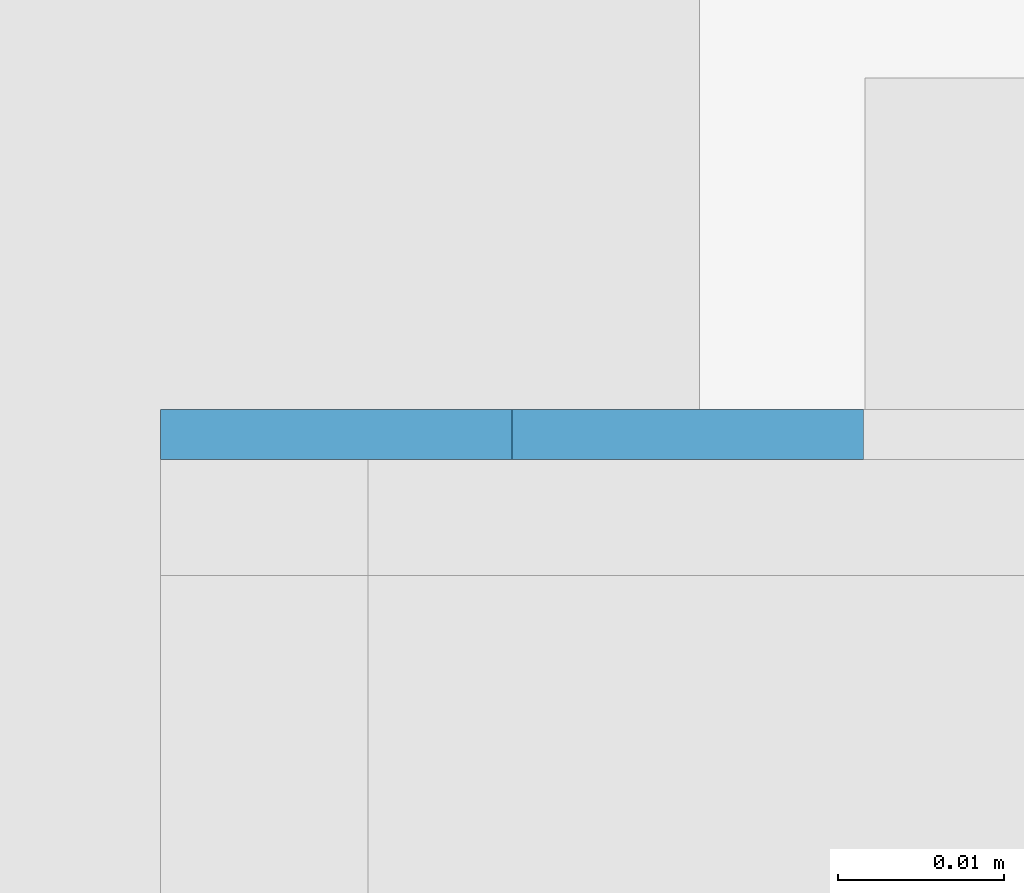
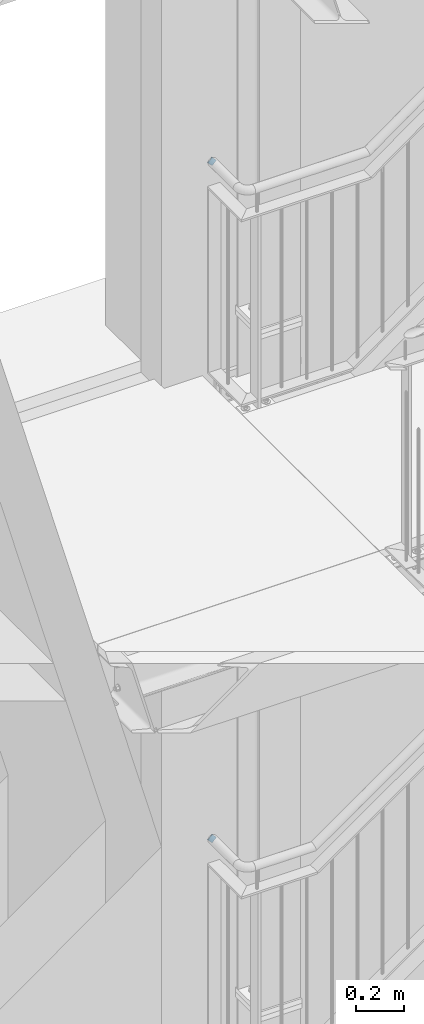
# One storey, part 225 of 825: 2 plates, 8 openings.
"""IFC2X3 building model written with IfcOpenShell, lengths in millimetres."""

from ifc_helpers import new_model, entity, si_unit, converted_unit, point, frame, frame_2d, origin, origin_with_axes, place, context, project, spatial, polyline, circle_curve, line_curve, trimmed, segment, composite_curve, outline, extrude, material, layer, layer_set, element, save


model = new_model("IFC2X3")

# Units and contexts
model_context = context("Model", 3, precision=1e-09, world=origin_with_axes())
ifc_project = project(units=[si_unit("LENGTHUNIT", "METRE", prefix="MILLI"), si_unit("AREAUNIT", "SQUARE_METRE"), si_unit("VOLUMEUNIT", "CUBIC_METRE"), converted_unit("PLANEANGLEUNIT", "DEGREE", entity("IfcPlaneAngleMeasure", 0.01745329), si_unit("PLANEANGLEUNIT", "RADIAN"), dimensions=[0, 0, 0, 0, 0, 0, 0])], contexts=[model_context])

# Site, building, storey
site_placement = place(None, origin_with_axes())
site = spatial("IfcSite", under=ifc_project, at=site_placement, Name="Cnopf'sche Kinderklinik", CompositionType="ELEMENT")
building_placement = place(site_placement, origin_with_axes())
building = spatial("IfcBuilding", under=site, at=building_placement, Name="Struktur 1", CompositionType="ELEMENT")
storey_placement = place(building_placement, origin_with_axes())
storey = spatial("IfcBuildingStorey", under=building, at=storey_placement, Name="Default Storey", CompositionType="ELEMENT", Elevation=0.0)

# Plate, openings
ifc_material = material(Name="S235JR")
ifc_layer = layer(ifc_material, 3.0)
ifc_layer_set = layer_set([ifc_layer], Name="S235JR")
plate_1_placement = place(None, frame((4614.213403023, 7608.736971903, 8460.000000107), z_axis=(0.0, 1.0, 0.0), x_axis=(0.0, 0.0, 1.0)))
plate_1 = element("IfcPlate", 1, at=plate_1_placement, inside=storey, material=ifc_layer_set, Name="-", ObjectType="-", context=model_context, shape_type="SweptSolid", body=[
    extrude(outline(polyline([(21.2, 0.0), (21.2, 42.4), (-21.2, 42.4), (-21.2, 0.0), (21.2, 0.0)])), origin_with_axes(), (0.0, 0.0, 1.0), 3.0),
])
opening_1_placement = place(plate_1_placement, frame((0.0, 0.0, -0.01), z_axis=(0.0, 0.0, 1.0), x_axis=(1.0, 0.0, 0.0)))
element("IfcOpeningElement", 2, at=opening_1_placement, cuts=plate_1, ObjectType="Opening", context=model_context, shape_type="SweptSolid", body=[
    extrude(outline(composite_curve([segment(trimmed(line_curve((21.2, 0.0), (0.0, 1.0), 21.2), [point((21.2, 0.0))], [point((21.2, 21.2))], True, "CARTESIAN"), True, "CONTINUOUS"), segment(trimmed(circle_curve(frame_2d((0.0, 21.2), x_axis=(-1.0, 0.0)), 21.2), [point((21.2, 21.2))], [point((0.0, 0.0))], False, "CARTESIAN"), True, "CONTINUOUS"), segment(trimmed(line_curve((0.0, 0.0), (1.0, 0.0), 21.2), [point((0.0, 0.0))], [point((21.2, 0.0))], True, "CARTESIAN"), True, "CONTINUOUS")], self_intersect=False)), origin(), (0.0, 0.0, 1.0), 3.02),
])
opening_2_placement = place(plate_1_placement, frame((0.0, 0.0, -0.01), z_axis=(0.0, 0.0, 1.0), x_axis=(1.0, 0.0, 0.0)))
element("IfcOpeningElement", 3, at=opening_2_placement, cuts=plate_1, ObjectType="Opening", context=model_context, shape_type="SweptSolid", body=[
    extrude(outline(composite_curve([segment(trimmed(line_curve((21.2, 42.4), (-1.0, 0.0), 21.2), [point((21.2, 42.4))], [point((0.0, 42.4))], True, "CARTESIAN"), True, "CONTINUOUS"), segment(trimmed(circle_curve(frame_2d((0.0, 21.2), x_axis=(-1.0, 0.0)), 21.2), [point((0.0, 42.4))], [point((21.2, 21.2))], False, "CARTESIAN"), True, "CONTINUOUS"), segment(trimmed(line_curve((21.2, 21.2), (0.0, 1.0), 21.2), [point((21.2, 21.2))], [point((21.2, 42.4))], True, "CARTESIAN"), True, "CONTINUOUS")], self_intersect=False)), origin(), (0.0, 0.0, 1.0), 3.02),
])
opening_3_placement = place(plate_1_placement, frame((0.0, 0.0, -0.01), z_axis=(0.0, 0.0, 1.0), x_axis=(1.0, 0.0, 0.0)))
element("IfcOpeningElement", 4, at=opening_3_placement, cuts=plate_1, ObjectType="Opening", context=model_context, shape_type="SweptSolid", body=[
    extrude(outline(composite_curve([segment(trimmed(line_curve((-21.2, 42.4), (0.0, -1.0), 21.2), [point((-21.2, 42.4))], [point((-21.2, 21.2))], True, "CARTESIAN"), True, "CONTINUOUS"), segment(trimmed(circle_curve(frame_2d((0.0, 21.2), x_axis=(-1.0, 0.0)), 21.2), [point((-21.2, 21.2))], [point((0.0, 42.4))], False, "CARTESIAN"), True, "CONTINUOUS"), segment(trimmed(line_curve((0.0, 42.4), (-1.0, 0.0), 21.2), [point((0.0, 42.4))], [point((-21.2, 42.4))], True, "CARTESIAN"), True, "CONTINUOUS")], self_intersect=False)), origin(), (0.0, 0.0, 1.0), 3.02),
])
opening_4_placement = place(plate_1_placement, frame((0.0, 0.0, -0.01), z_axis=(0.0, 0.0, 1.0), x_axis=(1.0, 0.0, 0.0)))
element("IfcOpeningElement", 5, at=opening_4_placement, cuts=plate_1, ObjectType="Opening", context=model_context, shape_type="SweptSolid", body=[
    extrude(outline(composite_curve([segment(trimmed(line_curve((-21.2, 0.0), (1.0, 0.0), 21.2), [point((-21.2, 0.0))], [point((0.0, 0.0))], True, "CARTESIAN"), True, "CONTINUOUS"), segment(trimmed(circle_curve(frame_2d((0.0, 21.2), x_axis=(-1.0, 0.0)), 21.2), [point((0.0, 0.0))], [point((-21.2, 21.2))], False, "CARTESIAN"), True, "CONTINUOUS"), segment(trimmed(line_curve((-21.2, 21.2), (0.0, -1.0), 21.2), [point((-21.2, 21.2))], [point((-21.2, 0.0))], True, "CARTESIAN"), True, "CONTINUOUS")], self_intersect=False)), origin(), (0.0, 0.0, 1.0), 3.02),
])

plate_2_placement = place(None, frame((4614.213403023, 7608.736971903, 4987.000000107), z_axis=(0.0, 1.0, 0.0), x_axis=(0.0, 0.0, 1.0)))
plate_2 = element("IfcPlate", 6, at=plate_2_placement, inside=storey, material=ifc_layer_set, Name="-", ObjectType="-", context=model_context, shape_type="SweptSolid", body=[
    extrude(outline(polyline([(21.2, 0.0), (21.2, 42.4), (-21.2, 42.4), (-21.2, 0.0), (21.2, 0.0)])), origin_with_axes(), (0.0, 0.0, 1.0), 3.0),
])
opening_5_placement = place(plate_2_placement, frame((0.0, 0.0, -0.01), z_axis=(0.0, 0.0, 1.0), x_axis=(1.0, 0.0, 0.0)))
element("IfcOpeningElement", 7, at=opening_5_placement, cuts=plate_2, ObjectType="Opening", context=model_context, shape_type="SweptSolid", body=[
    extrude(outline(composite_curve([segment(trimmed(line_curve((21.2, 0.0), (0.0, 1.0), 21.2), [point((21.2, 0.0))], [point((21.2, 21.2))], True, "CARTESIAN"), True, "CONTINUOUS"), segment(trimmed(circle_curve(frame_2d((0.0, 21.2), x_axis=(-1.0, 0.0)), 21.2), [point((21.2, 21.2))], [point((0.0, 0.0))], False, "CARTESIAN"), True, "CONTINUOUS"), segment(trimmed(line_curve((0.0, 0.0), (1.0, 0.0), 21.2), [point((0.0, 0.0))], [point((21.2, 0.0))], True, "CARTESIAN"), True, "CONTINUOUS")], self_intersect=False)), origin(), (0.0, 0.0, 1.0), 3.02),
])
opening_6_placement = place(plate_2_placement, frame((0.0, 0.0, -0.01), z_axis=(0.0, 0.0, 1.0), x_axis=(1.0, 0.0, 0.0)))
element("IfcOpeningElement", 8, at=opening_6_placement, cuts=plate_2, ObjectType="Opening", context=model_context, shape_type="SweptSolid", body=[
    extrude(outline(composite_curve([segment(trimmed(line_curve((21.2, 42.4), (-1.0, 0.0), 21.2), [point((21.2, 42.4))], [point((0.0, 42.4))], True, "CARTESIAN"), True, "CONTINUOUS"), segment(trimmed(circle_curve(frame_2d((0.0, 21.2), x_axis=(-1.0, 0.0)), 21.2), [point((0.0, 42.4))], [point((21.2, 21.2))], False, "CARTESIAN"), True, "CONTINUOUS"), segment(trimmed(line_curve((21.2, 21.2), (0.0, 1.0), 21.2), [point((21.2, 21.2))], [point((21.2, 42.4))], True, "CARTESIAN"), True, "CONTINUOUS")], self_intersect=False)), origin(), (0.0, 0.0, 1.0), 3.02),
])
opening_7_placement = place(plate_2_placement, frame((0.0, 0.0, -0.01), z_axis=(0.0, 0.0, 1.0), x_axis=(1.0, 0.0, 0.0)))
element("IfcOpeningElement", 9, at=opening_7_placement, cuts=plate_2, ObjectType="Opening", context=model_context, shape_type="SweptSolid", body=[
    extrude(outline(composite_curve([segment(trimmed(line_curve((-21.2, 42.4), (0.0, -1.0), 21.2), [point((-21.2, 42.4))], [point((-21.2, 21.2))], True, "CARTESIAN"), True, "CONTINUOUS"), segment(trimmed(circle_curve(frame_2d((0.0, 21.2), x_axis=(-1.0, 0.0)), 21.2), [point((-21.2, 21.2))], [point((0.0, 42.4))], False, "CARTESIAN"), True, "CONTINUOUS"), segment(trimmed(line_curve((0.0, 42.4), (-1.0, 0.0), 21.2), [point((0.0, 42.4))], [point((-21.2, 42.4))], True, "CARTESIAN"), True, "CONTINUOUS")], self_intersect=False)), origin(), (0.0, 0.0, 1.0), 3.02),
])
opening_8_placement = place(plate_2_placement, frame((0.0, 0.0, -0.01), z_axis=(0.0, 0.0, 1.0), x_axis=(1.0, 0.0, 0.0)))
element("IfcOpeningElement", 10, at=opening_8_placement, cuts=plate_2, ObjectType="Opening", context=model_context, shape_type="SweptSolid", body=[
    extrude(outline(composite_curve([segment(trimmed(line_curve((-21.2, 0.0), (1.0, 0.0), 21.2), [point((-21.2, 0.0))], [point((0.0, 0.0))], True, "CARTESIAN"), True, "CONTINUOUS"), segment(trimmed(circle_curve(frame_2d((0.0, 21.2), x_axis=(-1.0, 0.0)), 21.2), [point((0.0, 0.0))], [point((-21.2, 21.2))], False, "CARTESIAN"), True, "CONTINUOUS"), segment(trimmed(line_curve((-21.2, 21.2), (0.0, -1.0), 21.2), [point((-21.2, 21.2))], [point((-21.2, 0.0))], True, "CARTESIAN"), True, "CONTINUOUS")], self_intersect=False)), origin(), (0.0, 0.0, 1.0), 3.02),
])

save(model, "model.ifc")
